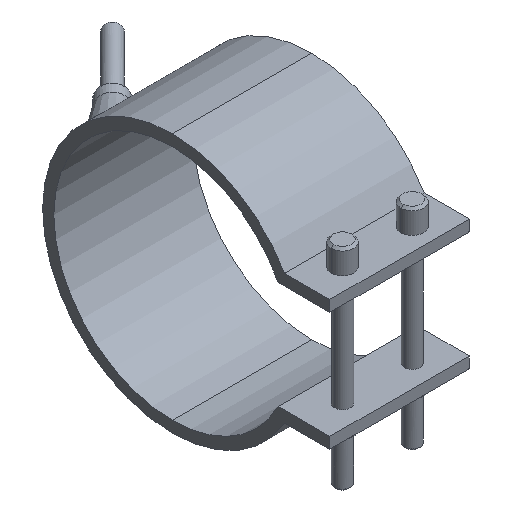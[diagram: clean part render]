
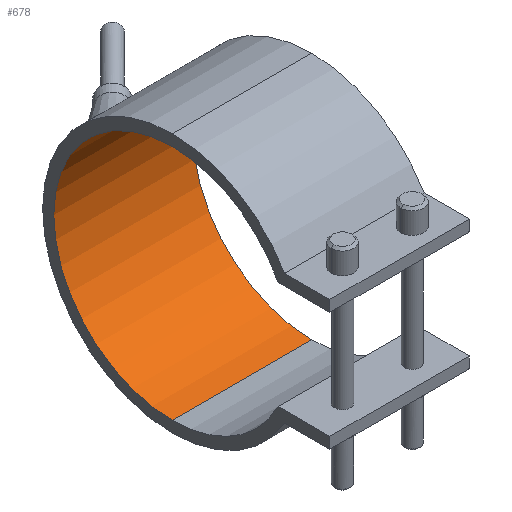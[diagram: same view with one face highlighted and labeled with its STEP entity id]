
A CAD part, isometric view. The second image highlights one B-rep face of the part: STEP entity #678.
In plain terms, the highlighted cylindrical face has radius 42.5 mm (diameter 85 mm), a partial arc.
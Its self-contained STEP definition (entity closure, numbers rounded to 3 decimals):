
#348=CARTESIAN_POINT('Vertex',(25.,0.,42.5)) ;
#353=CARTESIAN_POINT('Axis2P3D Location',(25.,0.,0.)) ;
#357=CARTESIAN_POINT('Vertex',(25.,0.,-42.5)) ;
#464=CARTESIAN_POINT('Vertex',(-25.,0.,-42.5)) ;
#467=CARTESIAN_POINT('Axis2P3D Location',(-25.,0.,0.)) ;
#471=CARTESIAN_POINT('Vertex',(-25.,0.,42.5)) ;
#650=CARTESIAN_POINT('Line Origine',(25.,0.,42.5)) ;
#662=CARTESIAN_POINT('Axis2P3D Location',(25.,0.,0.)) ;
#667=CARTESIAN_POINT('Line Origine',(25.,0.,-42.5)) ;
#354=DIRECTION('Axis2P3D Direction',(1.,0.,0.)) ;
#468=DIRECTION('Axis2P3D Direction',(1.,0.,0.)) ;
#651=DIRECTION('Vector Direction',(1.,0.,0.)) ;
#663=DIRECTION('Axis2P3D Direction',(1.,0.,-0.)) ;
#664=DIRECTION('Axis2P3D XDirection',(0.,0.,-1.)) ;
#668=DIRECTION('Vector Direction',(1.,0.,0.)) ;
#355=AXIS2_PLACEMENT_3D('Circle Axis2P3D',#353,#354,$) ;
#469=AXIS2_PLACEMENT_3D('Circle Axis2P3D',#467,#468,$) ;
#665=AXIS2_PLACEMENT_3D('Cylinder Axis2P3D',#662,#663,#664) ;
#673=ORIENTED_EDGE('',*,*,#359,.T.) ;
#674=ORIENTED_EDGE('',*,*,#654,.T.) ;
#675=ORIENTED_EDGE('',*,*,#473,.F.) ;
#676=ORIENTED_EDGE('',*,*,#671,.T.) ;
#652=VECTOR('Line Direction',#651,1.) ;
#669=VECTOR('Line Direction',#668,1.) ;
#678=ADVANCED_FACE('29085050',(#677),#666,.F.) ;
#356=CIRCLE('generated circle',#355,42.5) ;
#470=CIRCLE('generated circle',#469,42.5) ;
#666=CYLINDRICAL_SURFACE('generated cylinder',#665,42.5) ;
#359=EDGE_CURVE('',#358,#349,#356,.T.) ;
#473=EDGE_CURVE('',#465,#472,#470,.T.) ;
#654=EDGE_CURVE('',#349,#472,#653,.F.) ;
#671=EDGE_CURVE('',#465,#358,#670,.T.) ;
#672=EDGE_LOOP('',(#673,#674,#675,#676)) ;
#677=FACE_OUTER_BOUND('',#672,.T.) ;
#653=LINE('Line',#650,#652) ;
#670=LINE('Line',#667,#669) ;
#349=VERTEX_POINT('',#348) ;
#358=VERTEX_POINT('',#357) ;
#465=VERTEX_POINT('',#464) ;
#472=VERTEX_POINT('',#471) ;
